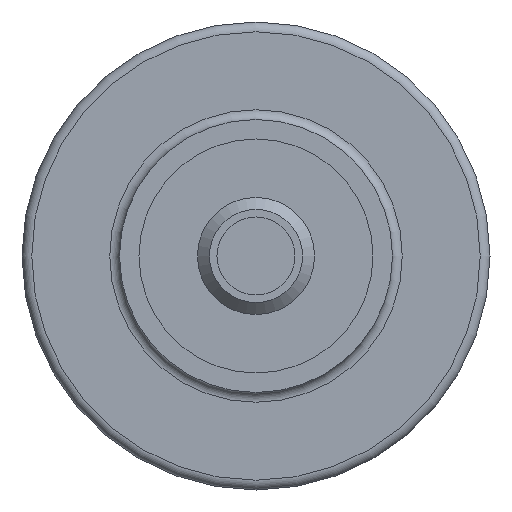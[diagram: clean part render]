
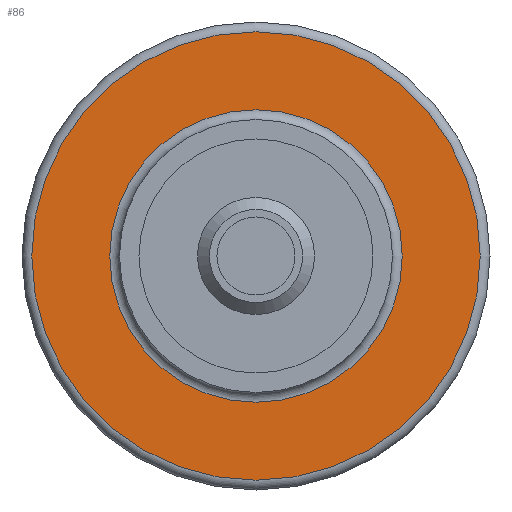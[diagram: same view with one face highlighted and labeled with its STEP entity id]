
A CAD part, front view. The second image highlights one B-rep face of the part: STEP entity #86.
In plain terms, the highlighted planar face has unit normal (0, -1, 0).
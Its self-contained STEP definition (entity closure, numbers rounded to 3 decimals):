
#86 = ADVANCED_FACE( '', ( #126, #127 ), #128, .F. );
#126 = FACE_BOUND( '', #181, .T. );
#127 = FACE_OUTER_BOUND( '', #182, .T. );
#128 = PLANE( '', #183 );
#181 = EDGE_LOOP( '', ( #258 ) );
#182 = EDGE_LOOP( '', ( #259 ) );
#183 = AXIS2_PLACEMENT_3D( '', #260, #261, #262 );
#258 = ORIENTED_EDGE( '', *, *, #309, .F. );
#259 = ORIENTED_EDGE( '', *, *, #308, .T. );
#260 = CARTESIAN_POINT( '', ( 11.5, 7., 0. ) );
#261 = DIRECTION( '', ( 0., 1., 0. ) );
#262 = DIRECTION( '', ( 0., 0., 1. ) );
#308 = EDGE_CURVE( '', #336, #336, #337, .T. );
#309 = EDGE_CURVE( '', #338, #338, #339, .T. );
#336 = VERTEX_POINT( '', #372 );
#337 = CIRCLE( '', #373, 11.5 );
#338 = VERTEX_POINT( '', #374 );
#339 = CIRCLE( '', #375, 7.5 );
#372 = CARTESIAN_POINT( '', ( 0., 7., -11.5 ) );
#373 = AXIS2_PLACEMENT_3D( '', #418, #419, #420 );
#374 = CARTESIAN_POINT( '', ( 0., 7., -7.5 ) );
#375 = AXIS2_PLACEMENT_3D( '', #421, #422, #423 );
#418 = CARTESIAN_POINT( '', ( 0., 7., 0. ) );
#419 = DIRECTION( '', ( 0., -1., 0. ) );
#420 = DIRECTION( '', ( 0., 0., -1. ) );
#421 = CARTESIAN_POINT( '', ( 0., 7., 0. ) );
#422 = DIRECTION( '', ( 0., -1., 0. ) );
#423 = DIRECTION( '', ( 0., 0., -1. ) );
